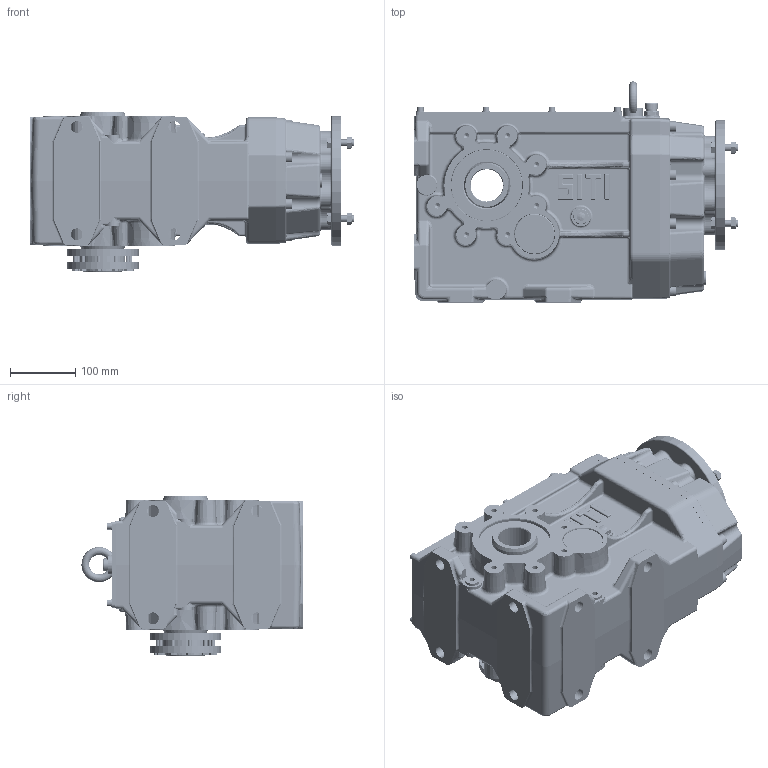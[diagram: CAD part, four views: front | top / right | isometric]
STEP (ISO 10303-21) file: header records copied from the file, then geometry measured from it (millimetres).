
FILE_DESCRIPTION((''),'2;1');
FILE_NAME('C:\Users\m.piscopiello.SITIRIDUTTORI\Desktop\3D x SITO\MBH 100 PAM 80\MBH_100 CC-A PAM 80.stp','2013-05-02T14:19:28',('m.piscopiello'),(''),'Autodesk Inventor 2012','Autodesk Inventor 2012','');
FILE_SCHEMA(('CONFIG_CONTROL_DESIGN'));
Length unit declared in the file: millimetre
Products named in the file (1): MBH_100 CC-A PAM 80
Bounding box: 498.5 x 339.95 x 245 mm (x, y, z)
Volume: 6678589.3 mm3; surface area: 1452377.8 mm2
Topology: 61 solids, 63 shells, 4032 faces, 9398 edges, 5597 vertices
Faces by surface type: cylinder 1273, plane 1243, bspline 553, torus 409, cone 320, sphere 234
Full cylindrical faces by diameter (mm): 4.917 x8, 6 x36, 6.4 x8, 6.5 x20, 6.647 x8, 7 x8, 8 x8, 8.376 x22, 9 x8, 10 x32, 10.106 x3, 11 x14, 12 x9, 12.5 x8, 13 x8, 14 x8, 14.63 x4, 14.95 x1, 16 x9, 16.6 x7, 18 x8, 19 x1, 19.05 x1, 19.5 x1, 20 x1, 26 x1, 30 x5, 37.5 x1, 39.37 x1, 39.9 x1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
Entity records: 133378 total; most frequent: CARTESIAN_POINT 43309, DIRECTION 18170, ORIENTED_EDGE 16848, EDGE_CURVE 8424, AXIS2_PLACEMENT_3D 7551, VERTEX_POINT 5338, EDGE_LOOP 4965, STYLED_ITEM 4090
